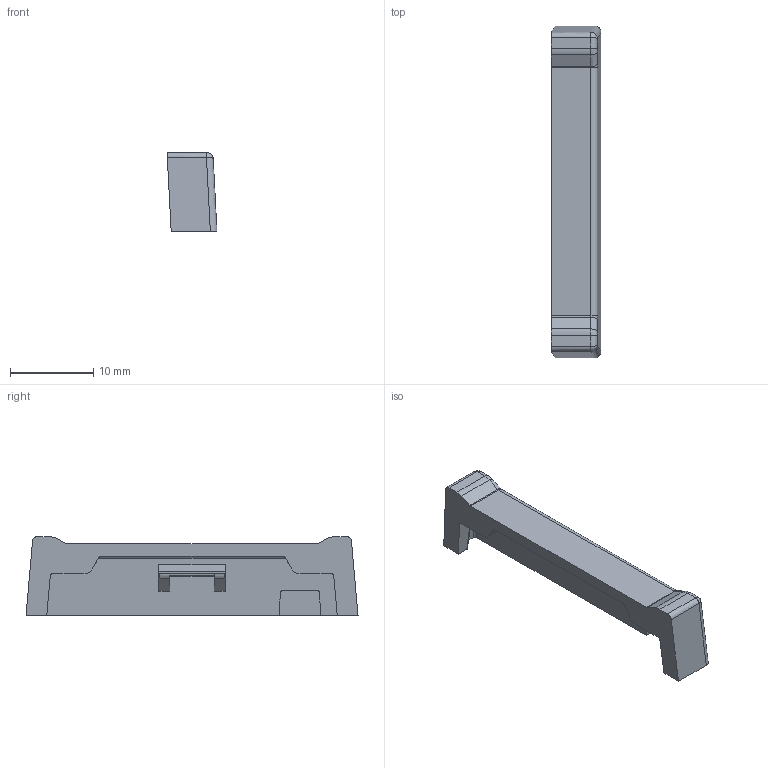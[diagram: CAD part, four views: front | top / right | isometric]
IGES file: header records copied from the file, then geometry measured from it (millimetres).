
Start section: START RECORD GO HERE.
Global section: file name: F15856_LINNEA-END-MS Mechanical model.igs; native system: DASSAULT SYSTEMES CATIA Version 5-6 Release 2013 - www.3ds.com; preprocessor: V5-6R2013_5.23.4.0.01-30-2014.20.00; author: jouko.kotitalo; organization: LEDIL; date: 20170216.160421; units: millimetre
Bounding box: 6.02 x 40 x 9.51 mm (x, y, z)
Surface area: 1366.1 mm2 (no closed solid volume)
Topology: 0 solids, 0 shells, 125 faces, 636 edges, 628 vertices
Faces by surface type: revolution 50, plane 41, bspline 34
